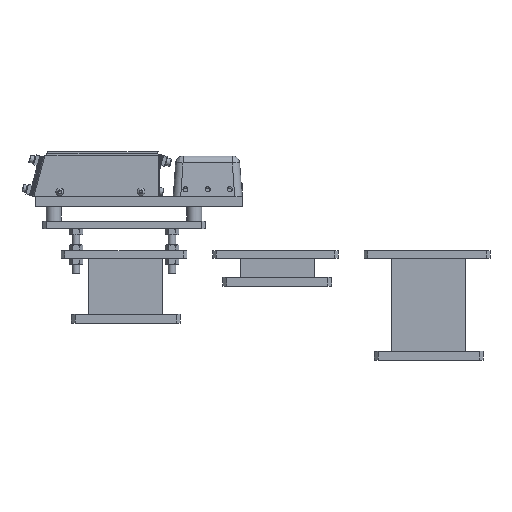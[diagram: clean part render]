
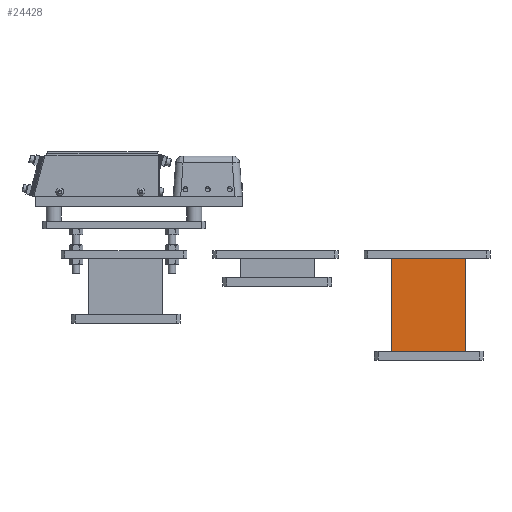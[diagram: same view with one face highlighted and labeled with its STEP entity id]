
A CAD part, front view. The second image highlights one B-rep face of the part: STEP entity #24428.
In plain terms, the highlighted planar face has unit normal (0, -1, 0).
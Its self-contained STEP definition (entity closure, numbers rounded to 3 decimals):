
#586 = CARTESIAN_POINT ( 'NONE',  ( 459.902, -6., 309.715 ) ) ;
#971 = EDGE_CURVE ( 'NONE', #23302, #9150, #5631, .T. ) ;
#1020 = DIRECTION ( 'NONE',  ( -1., 0., 0. ) ) ;
#1899 = VECTOR ( 'NONE', #3218, 1000. ) ;
#3143 = LINE ( 'NONE', #13157, #20917 ) ;
#3218 = DIRECTION ( 'NONE',  ( 0., 0., 1. ) ) ;
#5069 = DIRECTION ( 'NONE',  ( 0., 1., 0. ) ) ;
#5631 = LINE ( 'NONE', #13490, #31763 ) ;
#7248 = EDGE_CURVE ( 'NONE', #25005, #28842, #15902, .T. ) ;
#7687 = FACE_OUTER_BOUND ( 'NONE', #14925, .T. ) ;
#7982 = CARTESIAN_POINT ( 'NONE',  ( 459.902, -6., 233.715 ) ) ;
#9150 = VERTEX_POINT ( 'NONE', #31912 ) ;
#10563 = ORIENTED_EDGE ( 'NONE', *, *, #971, .F. ) ;
#11280 = CARTESIAN_POINT ( 'NONE',  ( 459.902, -6., 309.715 ) ) ;
#13157 = CARTESIAN_POINT ( 'NONE',  ( 359.902, -6., 233.715 ) ) ;
#13490 = CARTESIAN_POINT ( 'NONE',  ( 459.902, -6., 183.715 ) ) ;
#14923 = CARTESIAN_POINT ( 'NONE',  ( 459.902, -6., 233.715 ) ) ;
#14925 = EDGE_LOOP ( 'NONE', ( #26383, #19169, #10563, #32141 ) ) ;
#14971 = VECTOR ( 'NONE', #23766, 1000. ) ;
#15902 = LINE ( 'NONE', #11280, #14971 ) ;
#15946 = DIRECTION ( 'NONE',  ( 0., 0., 1. ) ) ;
#18706 = CARTESIAN_POINT ( 'NONE',  ( 359.902, -6., 309.715 ) ) ;
#19169 = ORIENTED_EDGE ( 'NONE', *, *, #26748, .F. ) ;
#20324 = PLANE ( 'NONE',  #21408 ) ;
#20917 = VECTOR ( 'NONE', #15946, 1000. ) ;
#21408 = AXIS2_PLACEMENT_3D ( 'NONE', #14923, #5069, #25098 ) ;
#21981 = CARTESIAN_POINT ( 'NONE',  ( 459.902, -6., 183.715 ) ) ;
#22125 = EDGE_CURVE ( 'NONE', #23302, #25005, #27865, .T. ) ;
#23302 = VERTEX_POINT ( 'NONE', #21981 ) ;
#23766 = DIRECTION ( 'NONE',  ( -1., 0., 0. ) ) ;
#24428 = ADVANCED_FACE ( 'NONE', ( #7687 ), #20324, .F. ) ;
#25005 = VERTEX_POINT ( 'NONE', #586 ) ;
#25098 = DIRECTION ( 'NONE',  ( 0., 0., 1. ) ) ;
#26383 = ORIENTED_EDGE ( 'NONE', *, *, #7248, .T. ) ;
#26748 = EDGE_CURVE ( 'NONE', #9150, #28842, #3143, .T. ) ;
#27865 = LINE ( 'NONE', #7982, #1899 ) ;
#28842 = VERTEX_POINT ( 'NONE', #18706 ) ;
#31763 = VECTOR ( 'NONE', #1020, 1000. ) ;
#31912 = CARTESIAN_POINT ( 'NONE',  ( 359.902, -6., 183.715 ) ) ;
#32141 = ORIENTED_EDGE ( 'NONE', *, *, #22125, .T. ) ;
